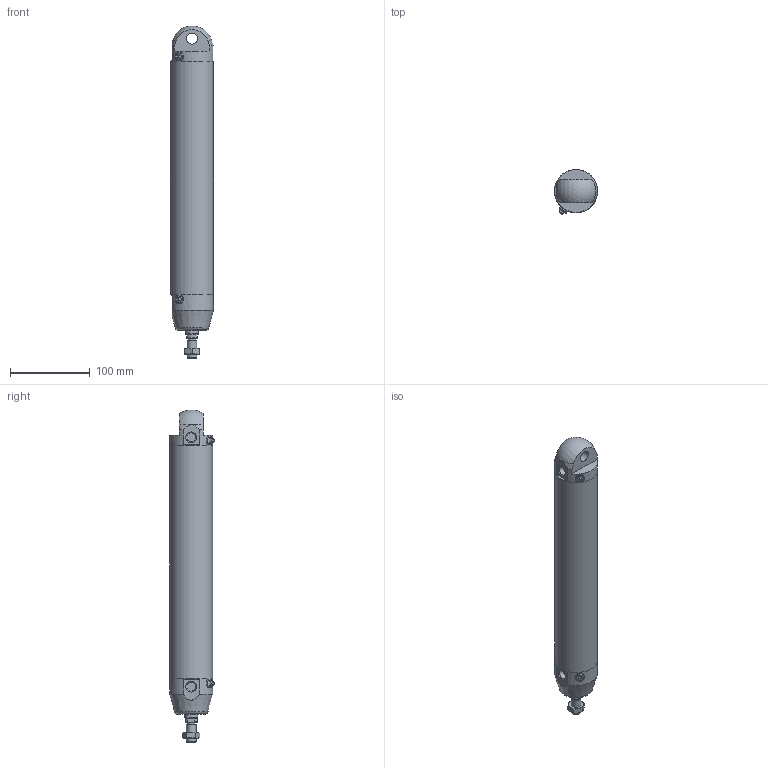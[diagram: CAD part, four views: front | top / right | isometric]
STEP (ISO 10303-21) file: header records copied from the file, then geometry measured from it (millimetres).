
FILE_DESCRIPTION(/* description */ (''),/* implementation_level */ '2;1');
FILE_NAME(/* name */ 'I:\Area Tecnica\Documenti\A-Manieri\_Inventor\12X\12X#A_###_####_#_#\12XBA_050_0250_#_#.stp',/* time_stamp */ '2015-04-24T09:19:01+02:00',/* author */ ('maniean1'),/* organization */ ('Pneumax S.p.A.'),/* preprocessor_version */ 'ST-DEVELOPER v15.2',/* originating_system */ 'Autodesk Inventor 2014',/* authorisation */ '');
FILE_SCHEMA (('AUTOMOTIVE_DESIGN { 1 0 10303 214 3 1 1 }'));
Length unit declared in the file: millimetre
Products named in the file (6): C1250_619-0250; 12X50_614; 12X50_607; S12X50_0250; 12X_50_11; 12XBA_050_0250_#_#
Bounding box: 54 x 55.88 x 416.83 mm (x, y, z)
Volume: 386805.2 mm3; surface area: 148246.4 mm2
Topology: 5 solids, 5 shells, 77 faces, 168 edges, 109 vertices
Faces by surface type: plane 43, cylinder 18, cone 12, torus 3, sphere 1
Full cylindrical faces by diameter (mm): 5 x2, 10.2 x1, 11 x2, 11.4 x2, 12 x2, 14 x2, 15.6 x1, 16 x1, 50 x2, 54 x3
Entity records: 2072 total; most frequent: CARTESIAN_POINT 428, DIRECTION 346, ORIENTED_EDGE 260, AXIS2_PLACEMENT_3D 152, EDGE_CURVE 130, EDGE_LOOP 122, VERTEX_POINT 100, ADVANCED_FACE 77
